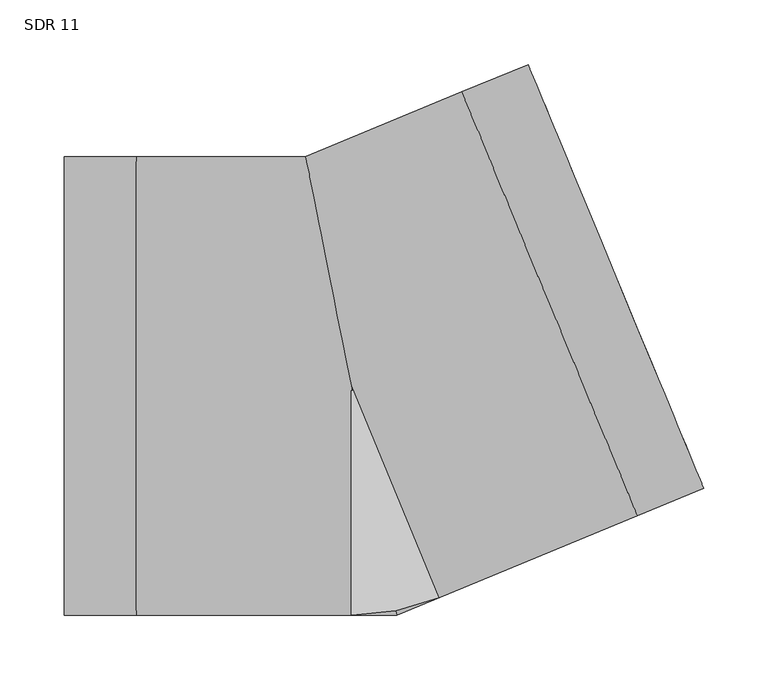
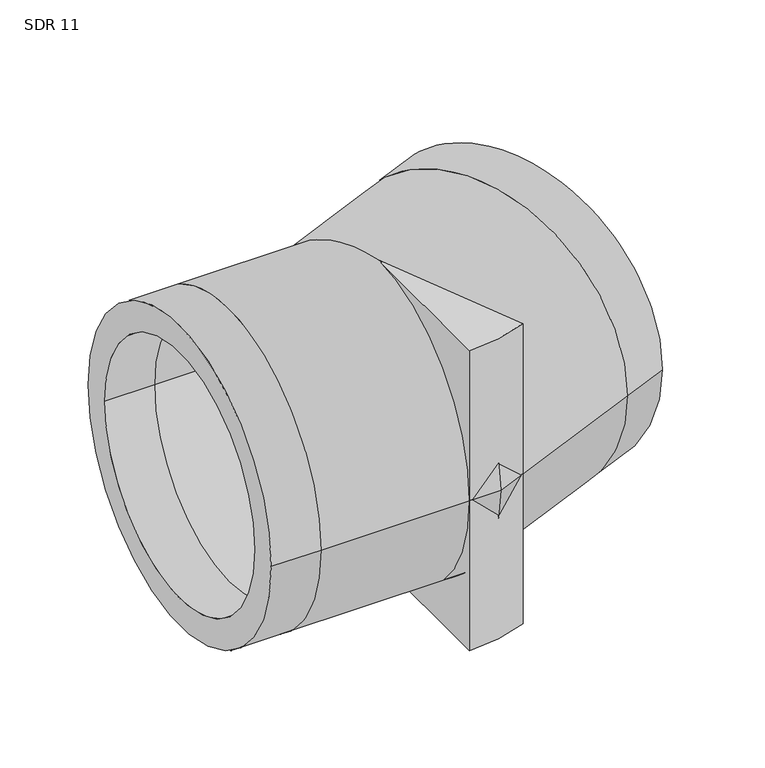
"""IFC4 building model written with IfcOpenShell, lengths in millimetres: pipe fitting geometry, Aquatherm - Elbow Blue BW Segmented : SDR 11."""

from ifc_helpers import new_model, si_unit, point, frame, origin, origin_with_axes, origin_2d, place, context, project, spatial, polyline, circle_curve, ellipse_curve, trimmed, segment, composite_curve, outline, extrude, source, transform, mapped, element, save
from ifc_brep_helpers import plane_surface, cylinder_surface, revolved_surface, advanced_brep


def sdr_11_b7d7f3cc(model_context):
    return source(origin(), model_context, "Body", "SolidModel", [
        extrude(outline(composite_curve([segment(polyline([(0.0, -177.8), (0.0, 0.0), (68.0411143, -164.2657809)]), True, "CONTINUOUS"), segment(trimmed(circle_curve(origin_2d(), 177.8), [point((68.0411143, -164.2657809))], [point((0.0, -177.8))], False, "CARTESIAN"), True, "CONTINUOUS")], self_intersect=False)), frame((0.0, 0.0, -177.8), z_axis=(0.0, 0.0, 1.0), x_axis=(1.0, 0.0, 0.0)), (0.0, 0.0, 1.0), 177.8),
        extrude(outline(composite_curve([segment(trimmed(circle_curve(origin_2d(), 177.8), [point((68.0411143, -164.2657809))], [point((0.0, -177.8))], False, "CARTESIAN"), True, "CONTINUOUS"), segment(polyline([(0.0, -177.8), (0.0, 0.0), (68.0411143, -164.2657809)]), True, "CONTINUOUS")], self_intersect=False)), origin_with_axes(), (0.0, 0.0, 1.0), 177.8),
        advanced_brep(
        [(-222.25, -177.8, 0.0), (-222.25, 177.8, 0.0), (-222.25, -145.4727273, 0.0), (-222.25, 145.4727273, 0.0), (273.3733404, -79.214388, 0.0), (137.2911118, 249.3171737, 0.0), (261.0022287, -49.3478824, 0.0), (149.6622235, 219.4506681, 0.0), (-166.6875, -177.8, 0.0), (-166.6875, 177.8, 0.0), (-166.6875, -145.4727273, 0.0), (-166.6875, 145.4727273, 0.0), (35.3666189, -177.8, 0.0), (-35.3666189, 177.8, 0.0), (28.9363246, -145.4727273, 0.0), (-28.9363246, 145.4727273, 0.0), (222.0402838, -100.4772362, 0.0), (85.9580553, 228.0543255, 0.0), (209.6691722, -70.6107306, 0.0), (98.329167, 198.1878199, 0.0)],
        [
            (0, 1, circle_curve(frame((-222.25, 0.0, 0.0), z_axis=(-1.0, 0.0, 0.0), x_axis=(0.0, 1.0, 0.0)), 177.8)),
            (1, 0, circle_curve(frame((-222.25, 0.0, 0.0), z_axis=(-1.0, 0.0, 0.0), x_axis=(0.0, 1.0, 0.0)), 177.8)),
            (2, 3, circle_curve(frame((-222.25, 0.0, 0.0), z_axis=(1.0, 0.0, 0.0), x_axis=(0.0, 1.0, 0.0)), 145.4727273)),
            (3, 2, circle_curve(frame((-222.25, 0.0, 0.0), z_axis=(1.0, 0.0, 0.0), x_axis=(0.0, 1.0, 0.0)), 145.4727273)),
            (4, 5, circle_curve(frame((205.3322261, 85.0513928, 0.0), z_axis=(0.9238795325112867, 0.3826834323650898, 0.0), x_axis=(-0.3826834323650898, 0.9238795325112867, 0.0)), 177.8)),
            (5, 4, circle_curve(frame((205.3322261, 85.0513928, 0.0), z_axis=(0.9238795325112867, 0.3826834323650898, 0.0), x_axis=(-0.3826834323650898, 0.9238795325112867, 0.0)), 177.8)),
            (6, 7, circle_curve(frame((205.3322261, 85.0513928, 0.0), z_axis=(-0.9238795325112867, -0.3826834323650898, 0.0), x_axis=(-0.3826834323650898, 0.9238795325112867, 0.0)), 145.4727273)),
            (7, 6, circle_curve(frame((205.3322261, 85.0513928, 0.0), z_axis=(-0.9238795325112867, -0.3826834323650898, 0.0), x_axis=(-0.3826834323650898, 0.9238795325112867, 0.0)), 145.4727273)),
            (0, 8),
            (8, 9, circle_curve(frame((-166.6875, 0.0, 0.0), z_axis=(-1.0, 0.0, 0.0), x_axis=(0.0, 1.0, 0.0)), 177.8)),
            (9, 1),
            (9, 8, circle_curve(frame((-166.6875, 0.0, 0.0), z_axis=(-1.0, 0.0, 0.0), x_axis=(0.0, 1.0, 0.0)), 177.8)),
            (2, 10),
            (10, 11, circle_curve(frame((-166.6875, 0.0, 0.0), z_axis=(1.0, 0.0, 0.0), x_axis=(0.0, 1.0, 0.0)), 145.4727273)),
            (11, 3),
            (11, 10, circle_curve(frame((-166.6875, 0.0, 0.0), z_axis=(1.0, 0.0, 0.0), x_axis=(0.0, 1.0, 0.0)), 145.4727273)),
            (8, 12),
            (12, 13, ellipse_curve(frame((0.0, 0.0, 0.0), z_axis=(-0.9807852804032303, -0.19509032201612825, 0.0), x_axis=(-0.19509032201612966, 0.9807852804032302, 0.0)), 181.2833079, 177.8)),
            (13, 9),
            (13, 12, ellipse_curve(frame((0.0, 0.0, 0.0), z_axis=(-0.9807852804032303, -0.19509032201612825, 0.0), x_axis=(-0.19509032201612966, 0.9807852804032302, 0.0)), 181.2833079, 177.8)),
            (10, 14),
            (14, 15, ellipse_curve(frame((0.0, 0.0, 0.0), z_axis=(0.9807852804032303, 0.19509032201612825, 0.0), x_axis=(0.19509032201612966, -0.9807852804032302, 0.0)), 148.3227065, 145.4727273)),
            (15, 11),
            (15, 14, ellipse_curve(frame((0.0, 0.0, 0.0), z_axis=(0.9807852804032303, 0.19509032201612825, 0.0), x_axis=(0.19509032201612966, -0.9807852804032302, 0.0)), 148.3227065, 145.4727273)),
            (12, 16),
            (16, 17, circle_curve(frame((153.9991696, 63.7885446, 0.0), z_axis=(-0.9238795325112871, -0.38268343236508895, 0.0), x_axis=(-0.38268343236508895, 0.9238795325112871, 0.0)), 177.8)),
            (17, 13),
            (17, 16, circle_curve(frame((153.9991696, 63.7885446, 0.0), z_axis=(-0.9238795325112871, -0.38268343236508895, 0.0), x_axis=(-0.38268343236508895, 0.9238795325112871, 0.0)), 177.8)),
            (14, 18),
            (18, 19, circle_curve(frame((153.9991696, 63.7885446, 0.0), z_axis=(0.9238795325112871, 0.38268343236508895, 0.0), x_axis=(-0.38268343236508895, 0.9238795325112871, 0.0)), 145.4727273)),
            (19, 15),
            (19, 18, circle_curve(frame((153.9991696, 63.7885446, 0.0), z_axis=(0.9238795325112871, 0.38268343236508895, 0.0), x_axis=(-0.38268343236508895, 0.9238795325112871, 0.0)), 145.4727273)),
            (16, 4),
            (5, 17),
            (18, 6),
            (7, 19),
        ],
        [
            plane_surface(frame((-222.25, 0.0, 0.0), z_axis=(-1.0, 0.0, 0.0), x_axis=(0.0, 0.0, 1.0))),
            plane_surface(frame((205.3322261, 85.0513928, 0.0), z_axis=(0.9238795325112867, 0.3826834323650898, 0.0), x_axis=(0.0, 0.0, 1.0))),
            cylinder_surface(frame((-222.25, 0.0, 0.0), z_axis=(-1.0, 0.0, 0.0), x_axis=(0.0, 1.0, 0.0)), 177.8),
            revolved_surface(polyline([(-166.6875, 145.4727273, 0.0), (-222.25, 145.4727273, 0.0)]), (-222.25, 0.0, 0.0), (1.0, 0.0, 0.0)),
            cylinder_surface(frame((-166.6875, 0.0, 0.0), z_axis=(-1.0, 0.0, 0.0), x_axis=(0.0, 1.0, 0.0)), 177.8),
            revolved_surface(polyline([(28.936324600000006, 145.4727273, 0.0), (-166.6875, 145.4727273, 0.0)]), (-166.6875, 0.0, 0.0), (1.0, 0.0, 0.0)),
            cylinder_surface(frame((0.0, 0.0, 0.0), z_axis=(-0.9238795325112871, -0.38268343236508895, 0.0), x_axis=(-0.38268343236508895, 0.9238795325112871, 0.0)), 177.8),
            revolved_surface(polyline([(98.32916701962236, 198.18781994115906, 0.0), (-82.40368061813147, 123.32582328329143, 0.0)]), (0.0, 0.0, 0.0), (0.9238795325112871, 0.38268343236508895, 0.0)),
            cylinder_surface(frame((153.9991696, 63.7885446, 0.0), z_axis=(-0.9238795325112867, -0.3826834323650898, 0.0), x_axis=(-0.3826834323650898, 0.9238795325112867, 0.0)), 177.8),
            revolved_surface(polyline([(149.66222353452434, 219.45066810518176, 0.0), (98.32916700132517, 198.18781989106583, 0.0)]), (153.9991696, 63.7885446, 0.0), (0.9238795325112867, 0.3826834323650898, 0.0)),
        ],
        [
            (0, [[1, 2], [3, 4]]),
            (1, [[5, 6], [7, 8]]),
            (2, [[-1, 9, 10, 11]]),
            (2, [[-2, -11, 12, -9]]),
            (3, [[-3, 13, 14, 15]]),
            (3, [[-4, -15, 16, -13]]),
            (4, [[-10, 17, 18, 19]]),
            (4, [[-12, -19, 20, -17]]),
            (5, [[-14, 21, 22, 23]]),
            (5, [[-16, -23, 24, -21]]),
            (6, [[-18, 25, 26, 27]]),
            (6, [[-20, -27, 28, -25]]),
            (7, [[-22, 29, 30, 31]]),
            (7, [[-24, -31, 32, -29]]),
            (8, [[-26, 33, -6, 34]]),
            (8, [[-28, -34, -5, -33]]),
            (9, [[-30, 35, -8, 36]]),
            (9, [[-32, -36, -7, -35]]),
        ],
    ),
    ])


if __name__ == "__main__":
    model = new_model("IFC4")
    model_context = context("Model", 3, world=origin())
    ifc_project = project(units=[si_unit("LENGTHUNIT", "METRE", prefix="MILLI")], contexts=[model_context])
    site = spatial("IfcSite", under=ifc_project)
    building = spatial("IfcBuilding", under=site)
    placement = place(None, origin())
    sdr_11_shape = sdr_11_b7d7f3cc(model_context)
    element("IfcPipeFitting", 1, ObjectType="Aquatherm - Elbow Blue BW Segmented : SDR 11", at=placement, inside=building, context=model_context, shape_type="MappedRepresentation", body=[
        mapped(sdr_11_shape, transform((0.0, 0.0, 0.0), x_axis=(1.0, 0.0, 0.0), y_axis=(0.0, 1.0, 0.0), z_axis=(0.0, 0.0, 1.0))),
    ])
    save(model, "model.ifc")
